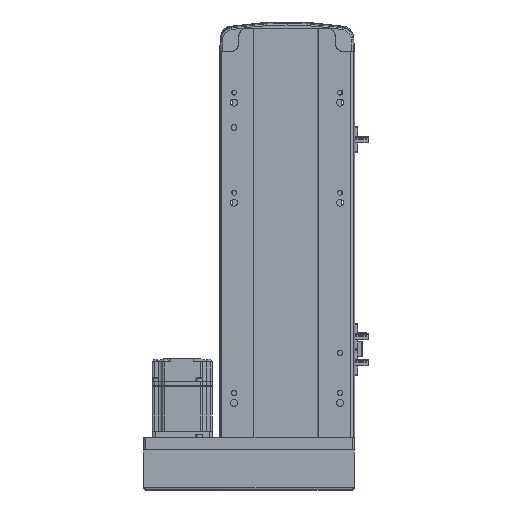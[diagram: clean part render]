
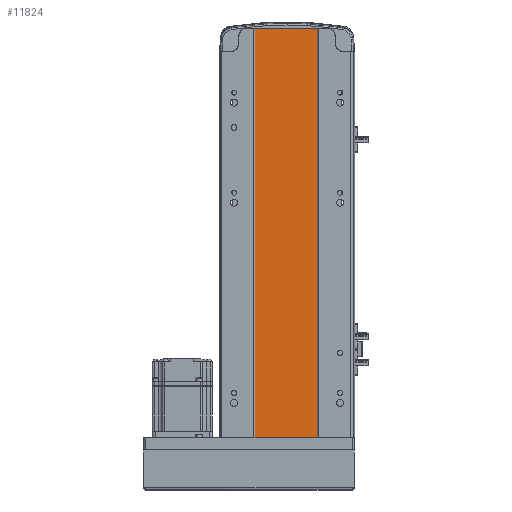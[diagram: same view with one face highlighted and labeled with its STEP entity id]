
A CAD part, front view. The second image highlights one B-rep face of the part: STEP entity #11824.
In plain terms, the highlighted planar face has unit normal (0, -1, 0).
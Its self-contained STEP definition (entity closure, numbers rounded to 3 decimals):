
#532 = ORIENTED_EDGE ( 'NONE', *, *, #3031, .F. ) ;
#960 = AXIS2_PLACEMENT_3D ( 'NONE', #45493, #48120, #5209 ) ;
#2592 = FACE_OUTER_BOUND ( 'NONE', #13136, .T. ) ;
#2922 = VECTOR ( 'NONE', #32950, 1000. ) ;
#3031 = EDGE_CURVE ( 'NONE', #38388, #16737, #29312, .T. ) ;
#3043 = CARTESIAN_POINT ( 'NONE',  ( 30., 1., 409. ) ) ;
#5209 = DIRECTION ( 'NONE',  ( -1., 0., 0. ) ) ;
#7071 = EDGE_CURVE ( 'NONE', #11904, #12108, #19859, .T. ) ;
#8649 = ORIENTED_EDGE ( 'NONE', *, *, #13748, .T. ) ;
#9262 = CARTESIAN_POINT ( 'NONE',  ( -32., 1., 0. ) ) ;
#10799 = ORIENTED_EDGE ( 'NONE', *, *, #7071, .T. ) ;
#11824 = ADVANCED_FACE ( 'NONE', ( #2592 ), #48923, .F. ) ;
#11904 = VERTEX_POINT ( 'NONE', #31300 ) ;
#12108 = VERTEX_POINT ( 'NONE', #46137 ) ;
#13136 = EDGE_LOOP ( 'NONE', ( #8649, #532, #50581, #10799 ) ) ;
#13748 = EDGE_CURVE ( 'NONE', #12108, #16737, #21299, .T. ) ;
#16737 = VERTEX_POINT ( 'NONE', #46266 ) ;
#17582 = DIRECTION ( 'NONE',  ( 1., 0., 0. ) ) ;
#19859 = LINE ( 'NONE', #36590, #2922 ) ;
#21299 = LINE ( 'NONE', #9262, #36210 ) ;
#24172 = DIRECTION ( 'NONE',  ( 0., 0., -1. ) ) ;
#24895 = EDGE_CURVE ( 'NONE', #11904, #38388, #40714, .T. ) ;
#29312 = LINE ( 'NONE', #50801, #51134 ) ;
#30524 = VECTOR ( 'NONE', #35809, 1000. ) ;
#31300 = CARTESIAN_POINT ( 'NONE',  ( -32., 1., 409. ) ) ;
#32950 = DIRECTION ( 'NONE',  ( 0., 0., -1. ) ) ;
#35809 = DIRECTION ( 'NONE',  ( 1., 0., 0. ) ) ;
#36210 = VECTOR ( 'NONE', #17582, 1000. ) ;
#36590 = CARTESIAN_POINT ( 'NONE',  ( -32., 1., 409. ) ) ;
#38388 = VERTEX_POINT ( 'NONE', #3043 ) ;
#40714 = LINE ( 'NONE', #48793, #30524 ) ;
#45493 = CARTESIAN_POINT ( 'NONE',  ( -32., 1., 409. ) ) ;
#46137 = CARTESIAN_POINT ( 'NONE',  ( -32., 1., 0. ) ) ;
#46266 = CARTESIAN_POINT ( 'NONE',  ( 30., 1., 0. ) ) ;
#48120 = DIRECTION ( 'NONE',  ( 0., 1., 0. ) ) ;
#48793 = CARTESIAN_POINT ( 'NONE',  ( -32., 1., 409. ) ) ;
#48923 = PLANE ( 'NONE',  #960 ) ;
#50581 = ORIENTED_EDGE ( 'NONE', *, *, #24895, .F. ) ;
#50801 = CARTESIAN_POINT ( 'NONE',  ( 30., 1., 409. ) ) ;
#51134 = VECTOR ( 'NONE', #24172, 1000. ) ;
